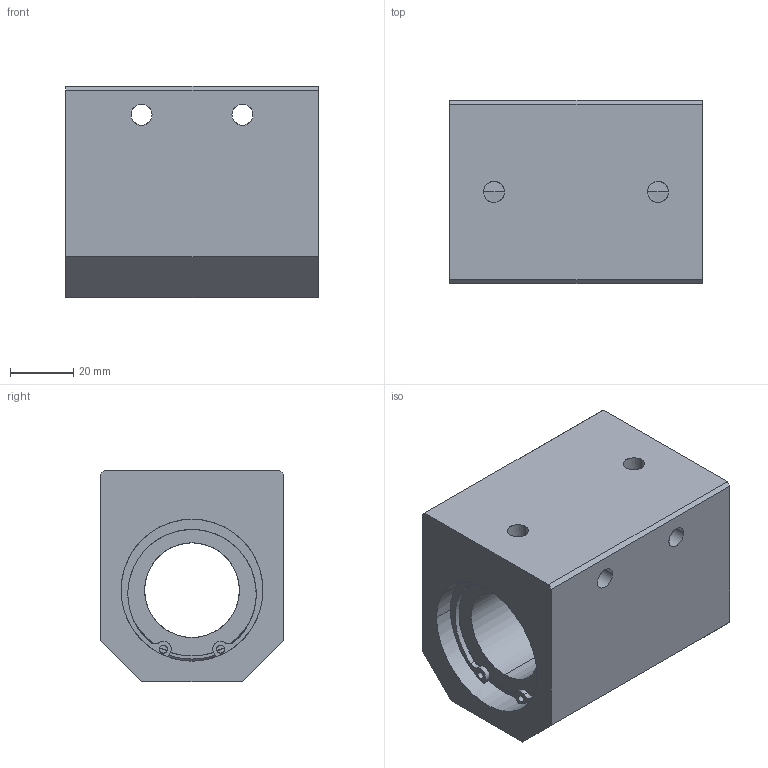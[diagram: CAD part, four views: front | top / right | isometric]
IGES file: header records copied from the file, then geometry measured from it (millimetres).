
Global section: file name: No Iges File Name specified; native system: AutoDesk Inventor R10; preprocessor: AutoDesk Inventor Iges Exporter R10; author: No Author specified; organization: No Organization specified; date: 20101213.094123; units: millimetre
Bounding box: 80 x 58 x 67 mm (x, y, z)
Surface area: 39223.3 mm2 (no closed solid volume)
Topology: 0 solids, 0 shells, 102 faces, 767 edges, 772 vertices
Faces by surface type: bspline 102
